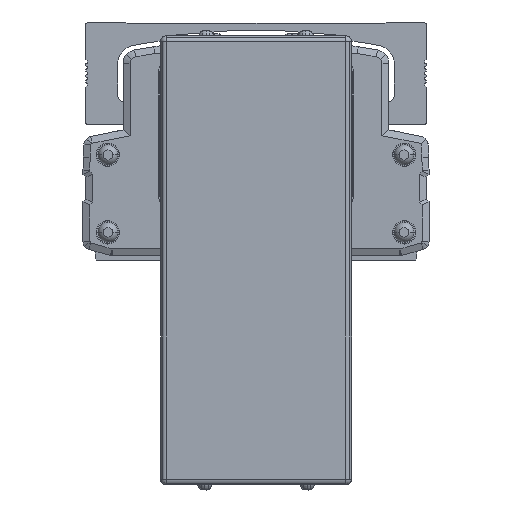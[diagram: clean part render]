
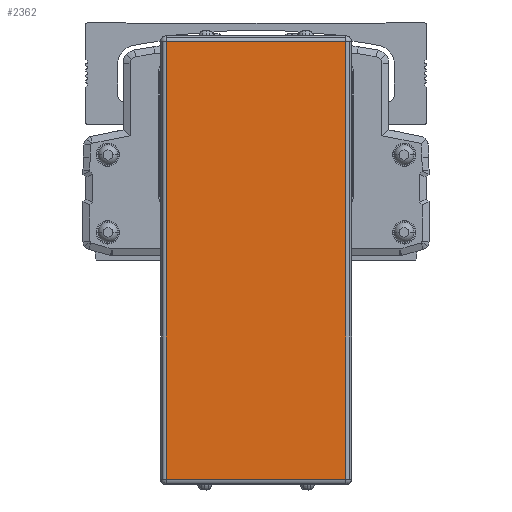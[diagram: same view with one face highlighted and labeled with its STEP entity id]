
A CAD part, front view. The second image highlights one B-rep face of the part: STEP entity #2362.
In plain terms, the highlighted planar face has unit normal (0, -1, 0).
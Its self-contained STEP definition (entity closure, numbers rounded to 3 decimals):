
#2362=ADVANCED_FACE('',(#6621),#6622,.T.);
#6621=FACE_OUTER_BOUND('',#13159,.T.);
#6622=PLANE('',#13160);
#13159=EDGE_LOOP('',(#21100,#21101,#21102,#21103));
#13160=AXIS2_PLACEMENT_3D('',#21104,#21105,#21106);
#21100=ORIENTED_EDGE('',*,*,#39903,.F.);
#21101=ORIENTED_EDGE('',*,*,#39904,.F.);
#21102=ORIENTED_EDGE('',*,*,#39905,.F.);
#21103=ORIENTED_EDGE('',*,*,#39906,.F.);
#21104=CARTESIAN_POINT('',(-299.996,-88.778,-49.1));
#21105=DIRECTION('',(0.,-1.0,0.));
#21106=DIRECTION('',(1.0,0.,0.));
#39903=EDGE_CURVE('',#47370,#47371,#47372,.T.);
#39904=EDGE_CURVE('',#47373,#47370,#47374,.T.);
#39905=EDGE_CURVE('',#47375,#47373,#47376,.T.);
#39906=EDGE_CURVE('',#47371,#47375,#47377,.T.);
#47370=VERTEX_POINT('',#58325);
#47371=VERTEX_POINT('',#58326);
#47372=LINE('',#58327,#58328);
#47373=VERTEX_POINT('',#58329);
#47374=LINE('',#58330,#58331);
#47375=VERTEX_POINT('',#58332);
#47376=LINE('',#58333,#58334);
#47377=LINE('',#58335,#58336);
#58325=CARTESIAN_POINT('',(-267.496,-88.778,30.));
#58326=CARTESIAN_POINT('',(-267.496,-88.778,-128.2));
#58327=CARTESIAN_POINT('',(-267.496,-88.778,-49.1));
#58328=VECTOR('',#74076,10.0);
#58329=CARTESIAN_POINT('',(-332.496,-88.778,30.));
#58330=CARTESIAN_POINT('',(-299.996,-88.778,30.));
#58331=VECTOR('',#74077,10.0);
#58332=CARTESIAN_POINT('',(-332.496,-88.778,-128.2));
#58333=CARTESIAN_POINT('',(-332.496,-88.778,-49.1));
#58334=VECTOR('',#74078,10.0);
#58335=CARTESIAN_POINT('',(-299.996,-88.778,-128.2));
#58336=VECTOR('',#74079,10.0);
#74076=DIRECTION('',(0.0,0.,-1.0));
#74077=DIRECTION('',(1.0,0.,0.));
#74078=DIRECTION('',(0.0,0.,1.0));
#74079=DIRECTION('',(-1.0,0.,0.));
